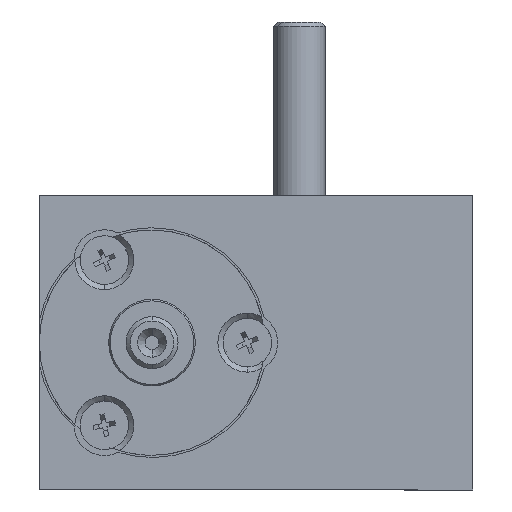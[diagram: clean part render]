
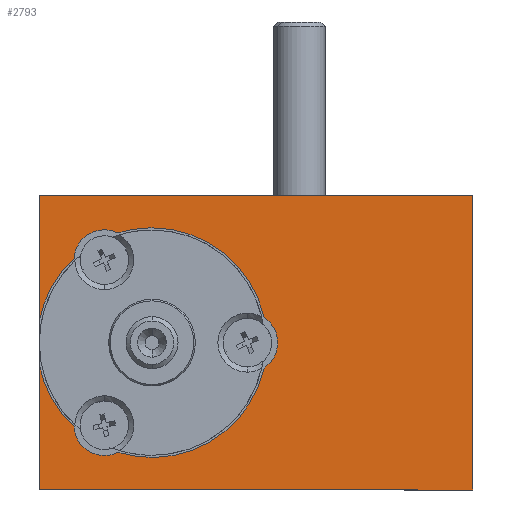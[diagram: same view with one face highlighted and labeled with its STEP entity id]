
A CAD part, left-side view. The second image highlights one B-rep face of the part: STEP entity #2793.
In plain terms, the highlighted planar face has unit normal (-1, 0, 0).
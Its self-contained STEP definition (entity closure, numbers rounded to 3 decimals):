
#2474 = VERTEX_POINT ( 'NONE', #7917 ) ;
#2476 = VERTEX_POINT ( 'NONE', #7919 ) ;
#2481 = VERTEX_POINT ( 'NONE', #7816 ) ;
#2489 = VERTEX_POINT ( 'NONE', #7868 ) ;
#2502 = EDGE_CURVE ( 'NONE', #2562, #2539, #7974, .T. ) ;
#2517 = EDGE_CURVE ( 'NONE', #2481, #2474, #5694, .T. ) ;
#2539 = VERTEX_POINT ( 'NONE', #5668 ) ;
#2541 = VERTEX_POINT ( 'NONE', #5674 ) ;
#2543 = VERTEX_POINT ( 'NONE', #5734 ) ;
#2562 = VERTEX_POINT ( 'NONE', #5846 ) ;
#2575 = EDGE_CURVE ( 'NONE', #2615, #2543, #5938, .T. ) ;
#2584 = EDGE_CURVE ( 'NONE', #2476, #2481, #6019, .T. ) ;
#2587 = VERTEX_POINT ( 'NONE', #5987 ) ;
#2597 = EDGE_CURVE ( 'NONE', #2489, #2476, #5923, .T. ) ;
#2615 = VERTEX_POINT ( 'NONE', #5889 ) ;
#2628 = EDGE_CURVE ( 'NONE', #2474, #2541, #6059, .T. ) ;
#2647 = EDGE_CURVE ( 'NONE', #2587, #2562, #6085, .T. ) ;
#2651 = EDGE_CURVE ( 'NONE', #2541, #2587, #6203, .T. ) ;
#2664 = ORIENTED_EDGE ( 'NONE', *, *, #2517, .T. ) ;
#2665 = ORIENTED_EDGE ( 'NONE', *, *, #2889, .T. ) ;
#2666 = ORIENTED_EDGE ( 'NONE', *, *, #2575, .F. ) ;
#2667 = ORIENTED_EDGE ( 'NONE', *, *, #2647, .T. ) ;
#2668 = ORIENTED_EDGE ( 'NONE', *, *, #2628, .T. ) ;
#2669 = ORIENTED_EDGE ( 'NONE', *, *, #2651, .T. ) ;
#2670 = EDGE_CURVE ( 'NONE', #2680, #2615, #6206, .T. ) ;
#2672 = ORIENTED_EDGE ( 'NONE', *, *, #2502, .T. ) ;
#2673 = EDGE_CURVE ( 'NONE', #2543, #2904, #6252, .T. ) ;
#2675 = ORIENTED_EDGE ( 'NONE', *, *, #2673, .F. ) ;
#2676 = ORIENTED_EDGE ( 'NONE', *, *, #2681, .F. ) ;
#2677 = ORIENTED_EDGE ( 'NONE', *, *, #2670, .F. ) ;
#2678 = VERTEX_POINT ( 'NONE', #6211 ) ;
#2680 = VERTEX_POINT ( 'NONE', #6215 ) ;
#2681 = EDGE_CURVE ( 'NONE', #2678, #2680, #6246, .T. ) ;
#2684 = EDGE_CURVE ( 'NONE', #2944, #2678, #6207, .T. ) ;
#2686 = ORIENTED_EDGE ( 'NONE', *, *, #2684, .F. ) ;
#2688 = ORIENTED_EDGE ( 'NONE', *, *, #2584, .T. ) ;
#2793 = ADVANCED_FACE ( 'NONE', ( #6187 ), #6643, .F. ) ;
#2839 = ORIENTED_EDGE ( 'NONE', *, *, #2597, .T. ) ;
#2879 = EDGE_CURVE ( 'NONE', #2944, #2489, #6921, .T. ) ;
#2889 = EDGE_CURVE ( 'NONE', #2539, #2904, #6901, .T. ) ;
#2904 = VERTEX_POINT ( 'NONE', #6852 ) ;
#2942 = EDGE_LOOP ( 'NONE', ( #2960, #2839, #2688, #2664, #2668, #2669, #2667, #2672, #2665, #2675, #2666, #2677, #2676, #2686 ) ) ;
#2944 = VERTEX_POINT ( 'NONE', #7128 ) ;
#2960 = ORIENTED_EDGE ( 'NONE', *, *, #2879, .T. ) ;
#5668 = CARTESIAN_POINT ( 'NONE',  ( -20., 20.994, -9.73 ) ) ;
#5674 = CARTESIAN_POINT ( 'NONE',  ( -20., -0.923, 2.924 ) ) ;
#5694 = CIRCLE ( 'NONE', #5699, 13.25 ) ;
#5699 = AXIS2_PLACEMENT_3D ( 'NONE', #5838, #5837, #5836 ) ;
#5734 = CARTESIAN_POINT ( 'NONE',  ( -20., 25., -17. ) ) ;
#5836 = DIRECTION ( 'NONE',  ( 0., 0., -1. ) ) ;
#5837 = DIRECTION ( 'NONE',  ( 1., 0., 0. ) ) ;
#5838 = CARTESIAN_POINT ( 'NONE',  ( -20., 12., 0. ) ) ;
#5846 = CARTESIAN_POINT ( 'NONE',  ( -20., 15.929, -12.654 ) ) ;
#5889 = CARTESIAN_POINT ( 'NONE',  ( -20., -25., -17. ) ) ;
#5913 = DIRECTION ( 'NONE',  ( 0., 0., -1. ) ) ;
#5919 = AXIS2_PLACEMENT_3D ( 'NONE', #5926, #5925, #5913 ) ;
#5923 = CIRCLE ( 'NONE', #5919, 3.5 ) ;
#5925 = DIRECTION ( 'NONE',  ( 1., 0., 0. ) ) ;
#5926 = CARTESIAN_POINT ( 'NONE',  ( -20., 17.5, 9.526 ) ) ;
#5937 = CARTESIAN_POINT ( 'NONE',  ( -20., 25., -17. ) ) ;
#5938 = LINE ( 'NONE', #5937, #6016 ) ;
#5981 = DIRECTION ( 'NONE',  ( 0., 0., -1. ) ) ;
#5982 = DIRECTION ( 'NONE',  ( 1., 0., 0. ) ) ;
#5983 = AXIS2_PLACEMENT_3D ( 'NONE', #5986, #5982, #5981 ) ;
#5986 = CARTESIAN_POINT ( 'NONE',  ( -20., 17.5, 9.526 ) ) ;
#5987 = CARTESIAN_POINT ( 'NONE',  ( -20., -0.923, -2.924 ) ) ;
#6002 = DIRECTION ( 'NONE',  ( 0., 0., -1. ) ) ;
#6003 = DIRECTION ( 'NONE',  ( 1., 0., 0. ) ) ;
#6004 = CARTESIAN_POINT ( 'NONE',  ( -20., 12., 0. ) ) ;
#6015 = DIRECTION ( 'NONE',  ( 0., 1., 0. ) ) ;
#6016 = VECTOR ( 'NONE', #6015, 1000. ) ;
#6019 = CIRCLE ( 'NONE', #5983, 3.5 ) ;
#6042 = CARTESIAN_POINT ( 'NONE',  ( -20., 12., 0. ) ) ;
#6056 = DIRECTION ( 'NONE',  ( 0., 0., -1. ) ) ;
#6057 = DIRECTION ( 'NONE',  ( 1., 0., 0. ) ) ;
#6059 = CIRCLE ( 'NONE', #6065, 13.25 ) ;
#6065 = AXIS2_PLACEMENT_3D ( 'NONE', #6042, #6057, #6056 ) ;
#6082 = AXIS2_PLACEMENT_3D ( 'NONE', #6004, #6003, #6002 ) ;
#6085 = CIRCLE ( 'NONE', #6082, 13.25 ) ;
#6187 = FACE_OUTER_BOUND ( 'NONE', #2942, .T. ) ;
#6196 = DIRECTION ( 'NONE',  ( 0., 0., -1. ) ) ;
#6197 = DIRECTION ( 'NONE',  ( 1., 0., 0. ) ) ;
#6201 = AXIS2_PLACEMENT_3D ( 'NONE', #6234, #6197, #6196 ) ;
#6203 = CIRCLE ( 'NONE', #6201, 3.5 ) ;
#6205 = CARTESIAN_POINT ( 'NONE',  ( -20., -25., 17. ) ) ;
#6206 = LINE ( 'NONE', #6205, #6213 ) ;
#6207 = LINE ( 'NONE', #6318, #6317 ) ;
#6211 = CARTESIAN_POINT ( 'NONE',  ( -20., 25., 17. ) ) ;
#6212 = DIRECTION ( 'NONE',  ( 0., 0., -1. ) ) ;
#6213 = VECTOR ( 'NONE', #6212, 1000. ) ;
#6215 = CARTESIAN_POINT ( 'NONE',  ( -20., -25., 17. ) ) ;
#6234 = CARTESIAN_POINT ( 'NONE',  ( -20., 1., 0. ) ) ;
#6241 = DIRECTION ( 'NONE',  ( 0., -1., 0. ) ) ;
#6242 = VECTOR ( 'NONE', #6241, 1000. ) ;
#6243 = CARTESIAN_POINT ( 'NONE',  ( -20., 25., 17. ) ) ;
#6246 = LINE ( 'NONE', #6243, #6242 ) ;
#6249 = DIRECTION ( 'NONE',  ( 0., 0., 1. ) ) ;
#6250 = VECTOR ( 'NONE', #6249, 1000. ) ;
#6251 = CARTESIAN_POINT ( 'NONE',  ( -20., 25., 17. ) ) ;
#6252 = LINE ( 'NONE', #6251, #6250 ) ;
#6316 = DIRECTION ( 'NONE',  ( 0., 0., 1. ) ) ;
#6317 = VECTOR ( 'NONE', #6316, 1000. ) ;
#6318 = CARTESIAN_POINT ( 'NONE',  ( -20., 25., 17. ) ) ;
#6639 = DIRECTION ( 'NONE',  ( 0., 0., -1. ) ) ;
#6640 = DIRECTION ( 'NONE',  ( 1., 0., 0. ) ) ;
#6641 = CARTESIAN_POINT ( 'NONE',  ( -20., -25., 17. ) ) ;
#6642 = AXIS2_PLACEMENT_3D ( 'NONE', #6641, #6640, #6639 ) ;
#6643 = PLANE ( 'NONE',  #6642 ) ;
#6800 = DIRECTION ( 'NONE',  ( 0., 0., -1. ) ) ;
#6801 = DIRECTION ( 'NONE',  ( 1., 0., 0. ) ) ;
#6852 = CARTESIAN_POINT ( 'NONE',  ( -20., 25., -2.562 ) ) ;
#6876 = DIRECTION ( 'NONE',  ( 0., 0., -1. ) ) ;
#6877 = DIRECTION ( 'NONE',  ( 1., 0., 0. ) ) ;
#6878 = CARTESIAN_POINT ( 'NONE',  ( -20., 12., 0. ) ) ;
#6901 = CIRCLE ( 'NONE', #6949, 13.25 ) ;
#6921 = CIRCLE ( 'NONE', #6928, 13.25 ) ;
#6928 = AXIS2_PLACEMENT_3D ( 'NONE', #6878, #6877, #6876 ) ;
#6949 = AXIS2_PLACEMENT_3D ( 'NONE', #6957, #6801, #6800 ) ;
#6957 = CARTESIAN_POINT ( 'NONE',  ( -20., 12., 0. ) ) ;
#7128 = CARTESIAN_POINT ( 'NONE',  ( -20., 25., 2.562 ) ) ;
#7816 = CARTESIAN_POINT ( 'NONE',  ( -20., 15.929, 12.654 ) ) ;
#7868 = CARTESIAN_POINT ( 'NONE',  ( -20., 20.994, 9.73 ) ) ;
#7917 = CARTESIAN_POINT ( 'NONE',  ( -20., 12., 13.25 ) ) ;
#7919 = CARTESIAN_POINT ( 'NONE',  ( -20., 17.5, 13.026 ) ) ;
#7941 = DIRECTION ( 'NONE',  ( 0., 0., -1. ) ) ;
#7942 = DIRECTION ( 'NONE',  ( 1., 0., 0. ) ) ;
#7943 = CARTESIAN_POINT ( 'NONE',  ( -20., 17.5, -9.526 ) ) ;
#7950 = AXIS2_PLACEMENT_3D ( 'NONE', #7943, #7942, #7941 ) ;
#7974 = CIRCLE ( 'NONE', #7950, 3.5 ) ;
